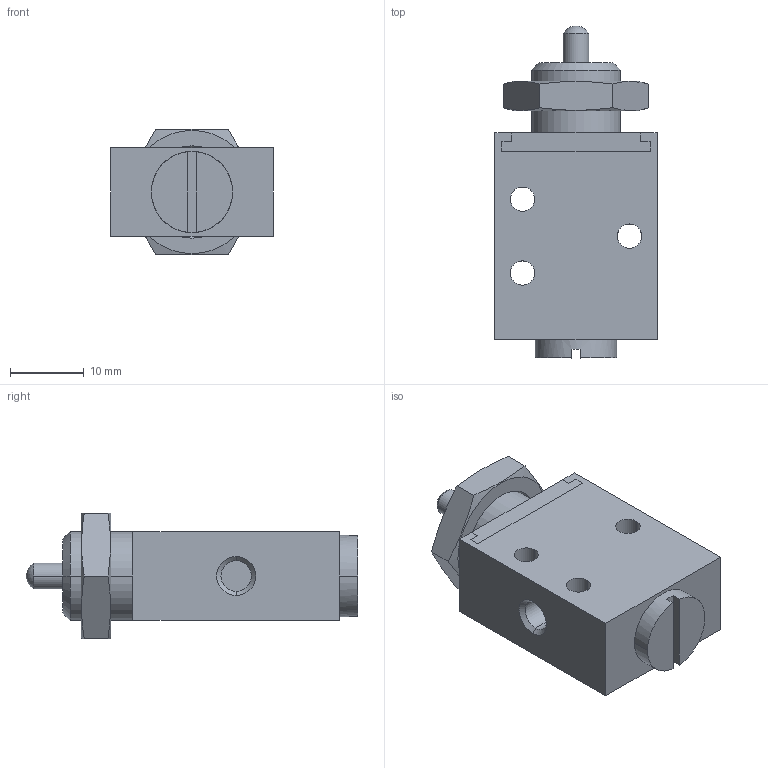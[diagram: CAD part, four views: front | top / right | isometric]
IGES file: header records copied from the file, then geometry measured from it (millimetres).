
Global section: file name: No Iges File Name specified; native system: AutoDesk Inventor R12.0; preprocessor: AutoDesk Inventor Iges Exporter R12.0; date: 20080225.141105; units: millimetre
Bounding box: 22 x 44.99 x 17 mm (x, y, z)
Volume: 8774.6 mm3; surface area: 4754 mm2
Topology: 3 solids, 3 shells, 79 faces, 190 edges, 122 vertices
Faces by surface type: plane 39, bspline 19, revolution 8, cylinder 6, cone 6, sphere 1
